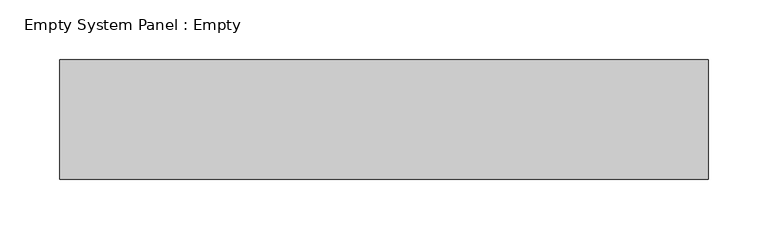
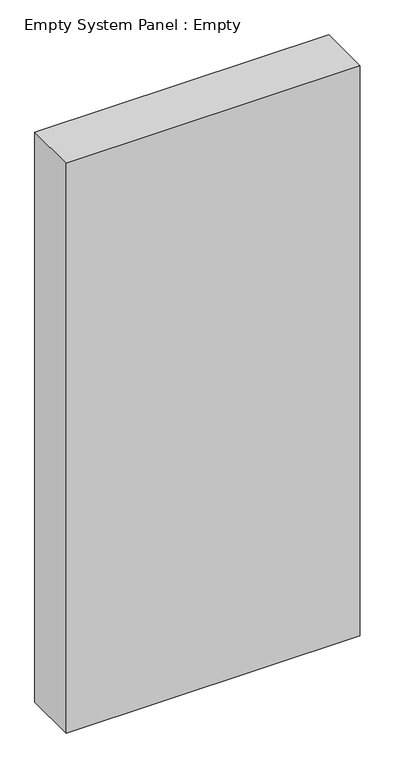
"""IFC4 building model written with IfcOpenShell, lengths in millimetres: plate geometry, Empty System Panel : Empty."""

from ifc_helpers import new_model, si_unit, origin, origin_with_axes, place, context, project, spatial, polyline, outline, extrude, source, transform, mapped, element, save


def empty_system_panel_empty_34ae9014(model_context):
    return source(origin(), model_context, "Body", "SweptSolid", [
        extrude(outline(polyline([(271.6623204, -50.0), (-271.6623204, -50.0), (-271.6623204, 50.0), (271.6623204, 50.0), (271.6623204, -50.0)])), origin_with_axes(), (0.0, 0.0, 1.0), 1112.5),
    ])


if __name__ == "__main__":
    model = new_model("IFC4")
    model_context = context("Model", 3, world=origin())
    ifc_project = project(units=[si_unit("LENGTHUNIT", "METRE", prefix="MILLI")], contexts=[model_context])
    site = spatial("IfcSite", under=ifc_project)
    building = spatial("IfcBuilding", under=site)
    placement = place(None, origin())
    empty_system_panel_empty_shape = empty_system_panel_empty_34ae9014(model_context)
    element("IfcPlate", 1, ObjectType="Empty System Panel : Empty", at=placement, inside=building, context=model_context, shape_type="MappedRepresentation", body=[
        mapped(empty_system_panel_empty_shape, transform((0.0, 0.0, 0.0), x_axis=(1.0, 0.0, 0.0), y_axis=(0.0, 1.0, 0.0), z_axis=(0.0, 0.0, 1.0))),
    ])
    save(model, "model.ifc")
